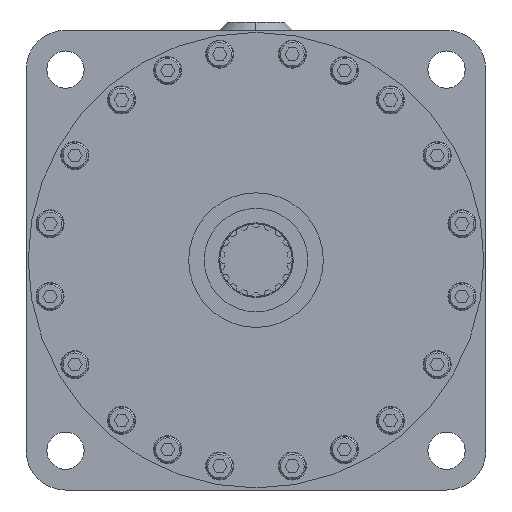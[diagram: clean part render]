
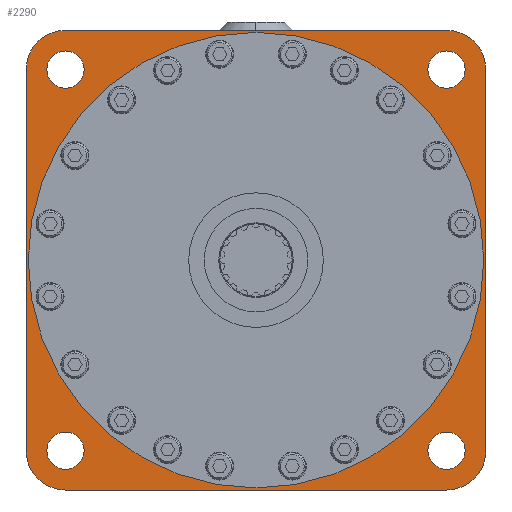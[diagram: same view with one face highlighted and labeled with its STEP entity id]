
A CAD part, left-side view. The second image highlights one B-rep face of the part: STEP entity #2290.
In plain terms, the highlighted planar face has unit normal (-1, 0, 0) as drawn and (0, 0, 1) by its records, which use the part's own axes.
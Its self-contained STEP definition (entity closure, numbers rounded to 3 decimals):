
#60=CARTESIAN_POINT('',(92.,-92.,19.5));
#70=DIRECTION('',(0.,0.,1.));
#80=DIRECTION('',(1.,0.,0.));
#90=AXIS2_PLACEMENT_3D('',#60,#70,#80);
#100=CIRCLE('',#90,19.);
#110=CARTESIAN_POINT('',(92.,-111.,19.5));
#120=VERTEX_POINT('',#110);
#130=CARTESIAN_POINT('',(111.,-92.,19.5));
#140=VERTEX_POINT('',#130);
#150=EDGE_CURVE('',#120,#140,#100,.T.);
#550=CARTESIAN_POINT('',(92.,92.,19.5));
#560=DIRECTION('',(0.,0.,-1.));
#570=DIRECTION('',(1.,0.,0.));
#580=AXIS2_PLACEMENT_3D('',#550,#560,#570);
#590=CIRCLE('',#580,19.);
#600=CARTESIAN_POINT('',(92.,111.,19.5));
#610=VERTEX_POINT('',#600);
#620=CARTESIAN_POINT('',(111.,92.,19.5));
#630=VERTEX_POINT('',#620);
#640=EDGE_CURVE('',#610,#630,#590,.T.);
#990=CARTESIAN_POINT('',(-137.5,0.,19.5));
#1000=DIRECTION('',(0.,0.,-1.));
#1010=DIRECTION('',(1.,0.,0.));
#1020=AXIS2_PLACEMENT_3D('',#990,#1000,#1010);
#1030=PLANE('',#1020);
#1040=CARTESIAN_POINT('',(92.,-92.,19.5));
#1050=DIRECTION('',(0.,0.,1.));
#1060=DIRECTION('',(0.,1.,0.));
#1070=AXIS2_PLACEMENT_3D('',#1040,#1050,#1060);
#1080=CIRCLE('',#1070,9.);
#1090=CARTESIAN_POINT('',(92.,-83.,19.5));
#1100=VERTEX_POINT('',#1090);
#1110=CARTESIAN_POINT('',(92.,-101.,19.5));
#1120=VERTEX_POINT('',#1110);
#1130=EDGE_CURVE('',#1100,#1120,#1080,.T.);
#1140=ORIENTED_EDGE('',*,*,#1130,.F.);
#1150=EDGE_CURVE('',#1120,#1100,#1080,.T.);
#1160=ORIENTED_EDGE('',*,*,#1150,.F.);
#1170=EDGE_LOOP('',(#1160,#1140));
#1180=FACE_BOUND('',#1170,.T.);
#1190=CARTESIAN_POINT('',(92.,92.,19.5));
#1200=DIRECTION('',(0.,0.,1.));
#1210=DIRECTION('',(-1.,0.,0.));
#1220=AXIS2_PLACEMENT_3D('',#1190,#1200,#1210);
#1230=CIRCLE('',#1220,9.);
#1240=CARTESIAN_POINT('',(83.,92.,19.5));
#1250=VERTEX_POINT('',#1240);
#1260=CARTESIAN_POINT('',(101.,92.,19.5));
#1270=VERTEX_POINT('',#1260);
#1280=EDGE_CURVE('',#1250,#1270,#1230,.T.);
#1290=ORIENTED_EDGE('',*,*,#1280,.F.);
#1300=EDGE_CURVE('',#1270,#1250,#1230,.T.);
#1310=ORIENTED_EDGE('',*,*,#1300,.F.);
#1320=EDGE_LOOP('',(#1310,#1290));
#1330=FACE_BOUND('',#1320,.T.);
#1340=CARTESIAN_POINT('',(-92.,92.,19.5));
#1350=DIRECTION('',(0.,0.,1.));
#1360=DIRECTION('',(0.,-1.,0.));
#1370=AXIS2_PLACEMENT_3D('',#1340,#1350,#1360);
#1380=CIRCLE('',#1370,9.);
#1390=CARTESIAN_POINT('',(-92.,83.,19.5));
#1400=VERTEX_POINT('',#1390);
#1410=CARTESIAN_POINT('',(-92.,101.,19.5));
#1420=VERTEX_POINT('',#1410);
#1430=EDGE_CURVE('',#1400,#1420,#1380,.T.);
#1440=ORIENTED_EDGE('',*,*,#1430,.F.);
#1450=EDGE_CURVE('',#1420,#1400,#1380,.T.);
#1460=ORIENTED_EDGE('',*,*,#1450,.F.);
#1470=EDGE_LOOP('',(#1460,#1440));
#1480=FACE_BOUND('',#1470,.T.);
#1490=CARTESIAN_POINT('',(-92.,-92.,19.5));
#1500=DIRECTION('',(0.,0.,1.));
#1510=DIRECTION('',(1.,0.,0.));
#1520=AXIS2_PLACEMENT_3D('',#1490,#1500,#1510);
#1530=CIRCLE('',#1520,9.);
#1540=CARTESIAN_POINT('',(-83.,-92.,19.5));
#1550=VERTEX_POINT('',#1540);
#1560=CARTESIAN_POINT('',(-101.,-92.,19.5));
#1570=VERTEX_POINT('',#1560);
#1580=EDGE_CURVE('',#1550,#1570,#1530,.T.);
#1590=ORIENTED_EDGE('',*,*,#1580,.F.);
#1600=EDGE_CURVE('',#1570,#1550,#1530,.T.);
#1610=ORIENTED_EDGE('',*,*,#1600,.F.);
#1620=EDGE_LOOP('',(#1610,#1590));
#1630=FACE_BOUND('',#1620,.T.);
#1640=CARTESIAN_POINT('',(0.,0.,19.5));
#1650=DIRECTION('',(0.,0.,-1.));
#1660=DIRECTION('',(-1.,0.,0.));
#1670=AXIS2_PLACEMENT_3D('',#1640,#1650,#1660);
#1680=CIRCLE('',#1670,110.);
#1690=CARTESIAN_POINT('',(-110.,0.,19.5));
#1700=VERTEX_POINT('',#1690);
#1710=CARTESIAN_POINT('',(110.,0.,19.5));
#1720=VERTEX_POINT('',#1710);
#1730=EDGE_CURVE('',#1700,#1720,#1680,.T.);
#1740=ORIENTED_EDGE('',*,*,#1730,.T.);
#1750=EDGE_CURVE('',#1720,#1700,#1680,.T.);
#1760=ORIENTED_EDGE('',*,*,#1750,.T.);
#1770=EDGE_LOOP('',(#1760,#1740));
#1780=FACE_BOUND('',#1770,.T.);
#1790=CARTESIAN_POINT('',(-92.,92.,19.5));
#1800=DIRECTION('',(0.,0.,1.));
#1810=DIRECTION('',(-1.,0.,0.));
#1820=AXIS2_PLACEMENT_3D('',#1790,#1800,#1810);
#1830=CIRCLE('',#1820,19.);
#1840=CARTESIAN_POINT('',(-92.,111.,19.5));
#1850=VERTEX_POINT('',#1840);
#1860=CARTESIAN_POINT('',(-111.,92.,19.5));
#1870=VERTEX_POINT('',#1860);
#1880=EDGE_CURVE('',#1850,#1870,#1830,.T.);
#1890=ORIENTED_EDGE('',*,*,#1880,.T.);
#1900=CARTESIAN_POINT('',(0.,111.,19.5));
#1910=DIRECTION('',(1.,0.,0.));
#1920=VECTOR('',#1910,1.);
#1930=LINE('',#1900,#1920);
#1940=EDGE_CURVE('',#1850,#610,#1930,.T.);
#1950=ORIENTED_EDGE('',*,*,#1940,.F.);
#1960=ORIENTED_EDGE('',*,*,#640,.F.);
#1970=CARTESIAN_POINT('',(111.,-92.,19.5));
#1980=DIRECTION('',(0.,1.,0.));
#1990=VECTOR('',#1980,1.);
#2000=LINE('',#1970,#1990);
#2010=EDGE_CURVE('',#140,#630,#2000,.T.);
#2020=ORIENTED_EDGE('',*,*,#2010,.T.);
#2030=ORIENTED_EDGE('',*,*,#150,.T.);
#2040=CARTESIAN_POINT('',(0.,-111.,19.5));
#2050=DIRECTION('',(1.,0.,0.));
#2060=VECTOR('',#2050,1.);
#2070=LINE('',#2040,#2060);
#2080=CARTESIAN_POINT('',(-92.,-111.,19.5));
#2090=VERTEX_POINT('',#2080);
#2100=EDGE_CURVE('',#2090,#120,#2070,.T.);
#2110=ORIENTED_EDGE('',*,*,#2100,.T.);
#2120=CARTESIAN_POINT('',(-92.,-92.,19.5));
#2130=DIRECTION('',(0.,0.,-1.));
#2140=DIRECTION('',(-1.,0.,0.));
#2150=AXIS2_PLACEMENT_3D('',#2120,#2130,#2140);
#2160=CIRCLE('',#2150,19.);
#2170=CARTESIAN_POINT('',(-111.,-92.,19.5));
#2180=VERTEX_POINT('',#2170);
#2190=EDGE_CURVE('',#2090,#2180,#2160,.T.);
#2200=ORIENTED_EDGE('',*,*,#2190,.F.);
#2210=CARTESIAN_POINT('',(-111.,0.,19.5));
#2220=DIRECTION('',(0.,1.,0.));
#2230=VECTOR('',#2220,1.);
#2240=LINE('',#2210,#2230);
#2250=EDGE_CURVE('',#2180,#1870,#2240,.T.);
#2260=ORIENTED_EDGE('',*,*,#2250,.F.);
#2270=EDGE_LOOP('',(#2260,#2200,#2110,#2030,#2020,#1960,#1950,#1890));
#2280=FACE_OUTER_BOUND('',#2270,.T.);
#2290=ADVANCED_FACE('',(#1180,#1330,#1480,#1630,#1780,#2280),#1030,.F.);
